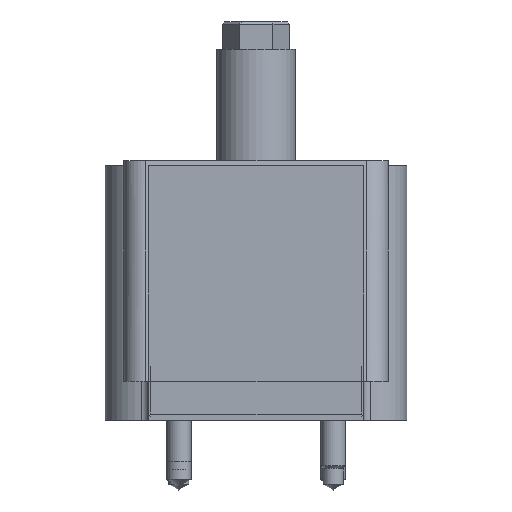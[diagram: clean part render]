
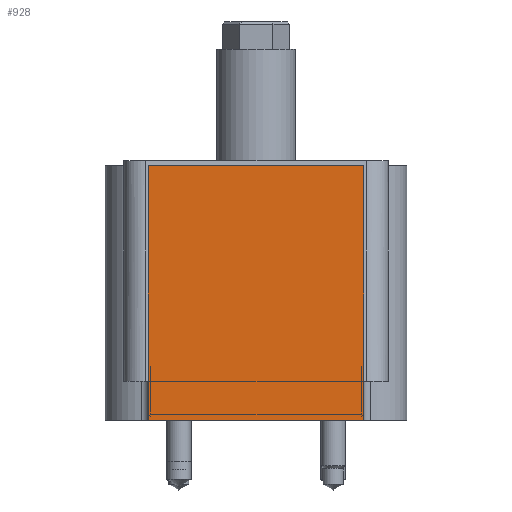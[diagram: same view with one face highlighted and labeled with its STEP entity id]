
A CAD part, left-side view. The second image highlights one B-rep face of the part: STEP entity #928.
In plain terms, the highlighted planar face has unit normal (-1, 0, 0).
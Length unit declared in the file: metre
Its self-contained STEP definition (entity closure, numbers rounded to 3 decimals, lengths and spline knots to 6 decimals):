
#928=ADVANCED_FACE('',(#1899),#1900,.T.);
#1899=FACE_OUTER_BOUND('',#11385,.T.);
#1900=PLANE('',#11386);
#11385=EDGE_LOOP('',(#13313,#13314,#13315,#13316));
#11386=AXIS2_PLACEMENT_3D('',#13317,#13318,#13319);
#13313=ORIENTED_EDGE('',*,*,#14069,.T.);
#13314=ORIENTED_EDGE('',*,*,#14050,.F.);
#13315=ORIENTED_EDGE('',*,*,#14057,.T.);
#13316=ORIENTED_EDGE('',*,*,#14087,.F.);
#13317=CARTESIAN_POINT('',(-0.058801,0.0,0.0));
#13318=DIRECTION('',(-1.0,0.0,0.0));
#13319=DIRECTION('',(0.0,0.0,1.0));
#14050=EDGE_CURVE('',#15087,#15082,#15089,.F.);
#14057=EDGE_CURVE('',#15087,#15099,#15101,.T.);
#14069=EDGE_CURVE('',#15121,#15082,#15122,.T.);
#14087=EDGE_CURVE('',#15121,#15099,#15142,.F.);
#15082=VERTEX_POINT('',#18483);
#15087=VERTEX_POINT('',#18490);
#15089=LINE('',#18493,#18494);
#15099=VERTEX_POINT('',#18506);
#15101=LINE('',#18509,#18510);
#15121=VERTEX_POINT('',#18532);
#15122=LINE('',#18533,#18534);
#15142=LINE('',#18557,#18558);
#18483=CARTESIAN_POINT('',(-0.058801,-0.034988,0.0));
#18490=CARTESIAN_POINT('',(-0.058801,-0.034988,0.08255));
#18493=CARTESIAN_POINT('',(-0.058801,-0.034988,0.0));
#18494=VECTOR('',#19313,1.0);
#18506=CARTESIAN_POINT('',(-0.058801,0.034988,0.08255));
#18509=CARTESIAN_POINT('',(-0.058801,0.0,0.08255));
#18510=VECTOR('',#19323,1.0);
#18532=CARTESIAN_POINT('',(-0.058801,0.034988,0.0));
#18533=CARTESIAN_POINT('',(-0.058801,0.0,0.0));
#18534=VECTOR('',#19350,1.0);
#18557=CARTESIAN_POINT('',(-0.058801,0.034988,0.0));
#18558=VECTOR('',#19369,1.0);
#19313=DIRECTION('',(0.0,0.0,1.0));
#19323=DIRECTION('',(0.0,1.0,0.0));
#19350=DIRECTION('',(-0.0,-1.0,-0.0));
#19369=DIRECTION('',(0.0,0.0,-1.0));
